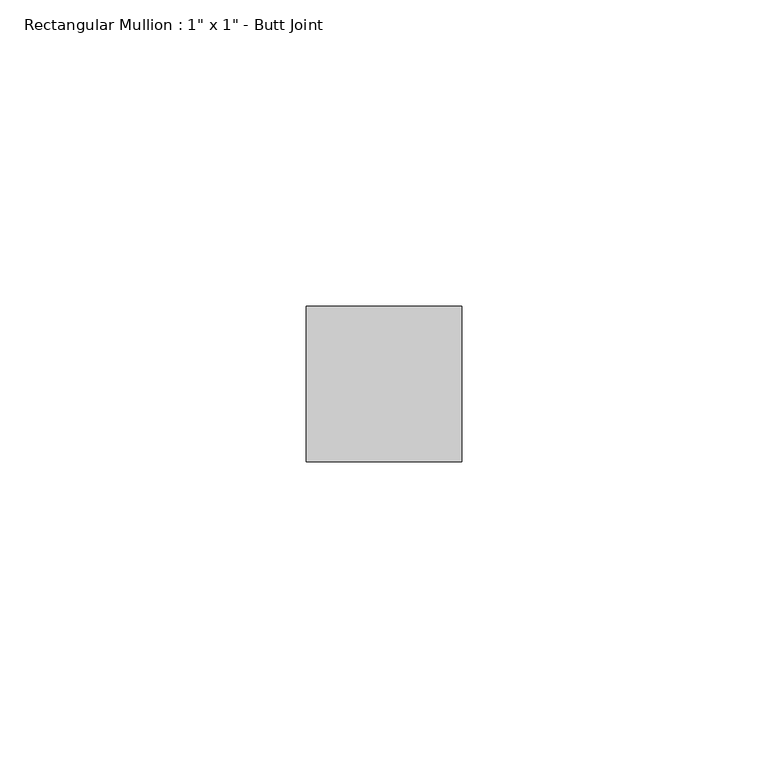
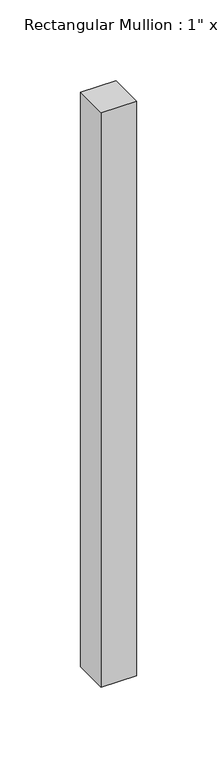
"""IFC4 building model written with IfcOpenShell, lengths in millimetres: member geometry."""

from ifc_helpers import new_model, si_unit, frame, origin, place, context, project, spatial, polyline, outline, extrude, source, transform, mapped, element, save


def member_8b579164(model_context):
    return source(origin(), model_context, "Body", "SweptSolid", [
        extrude(outline(polyline([(12.7, 12.7), (12.7, -12.7), (-12.7, -12.7), (-12.7, 12.7), (12.7, 12.7)])), frame((0.0, 0.0, -434.34), z_axis=(0.0, 0.0, 1.0), x_axis=(1.0, 0.0, 0.0)), (0.0, 0.0, 1.0), 434.34),
    ])


if __name__ == "__main__":
    model = new_model("IFC4")
    model_context = context("Model", 3, world=origin())
    ifc_project = project(units=[si_unit("LENGTHUNIT", "METRE", prefix="MILLI")], contexts=[model_context])
    site = spatial("IfcSite", under=ifc_project)
    building = spatial("IfcBuilding", under=site)
    placement = place(None, origin())
    member_shape = member_8b579164(model_context)
    element("IfcMember", 1, ObjectType="Rectangular Mullion : 1\" x 1\" - Butt Joint", at=placement, inside=building, context=model_context, shape_type="MappedRepresentation", body=[
        mapped(member_shape, transform((0.0, 0.0, 0.0), x_axis=(1.0, 0.0, 0.0), y_axis=(0.0, 1.0, 0.0), z_axis=(0.0, 0.0, 1.0))),
    ])
    save(model, "model.ifc")
